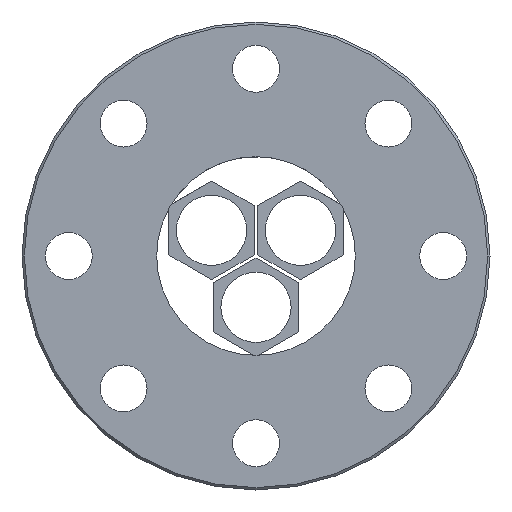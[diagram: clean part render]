
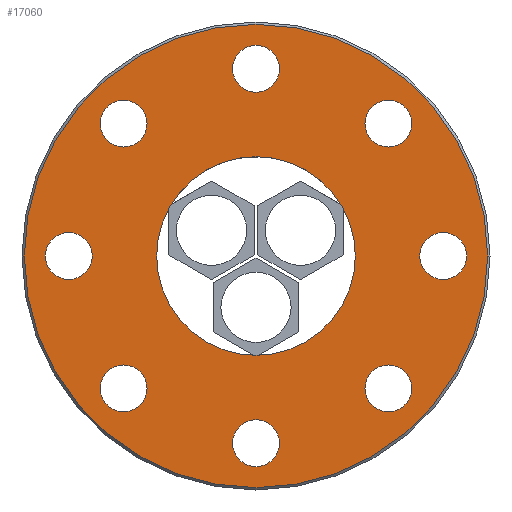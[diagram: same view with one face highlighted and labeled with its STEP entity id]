
A CAD part, left-side view. The second image highlights one B-rep face of the part: STEP entity #17060.
In plain terms, the highlighted planar face has unit normal (-1, 0, 0).
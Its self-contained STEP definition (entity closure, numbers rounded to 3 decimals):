
#7020=CARTESIAN_POINT('',(-76.,-66.569,56.569));
#7030=VERTEX_POINT('',#7020);
#7060=CARTESIAN_POINT('',(-76.,-56.569,56.569));
#7070=DIRECTION('',(-1.,0.,0.));
#7080=DIRECTION('',(0.,-1.,0.));
#7090=AXIS2_PLACEMENT_3D('',#7060,#7070,#7080);
#7100=CIRCLE('',#7090,10.);
#7110=CARTESIAN_POINT('',(-76.,-46.569,56.569));
#7120=VERTEX_POINT('',#7110);
#7130=EDGE_CURVE('',#7120,#7030,#7100,.T.);
#15610=CARTESIAN_POINT('',(-76.,43.005,9.807));
#15620=DIRECTION('',(-1.,0.,0.));
#15630=DIRECTION('',(0.,-1.,0.));
#15640=AXIS2_PLACEMENT_3D('',#15610,#15620,#15630);
#15650=PLANE('',#15640);
#15660=CARTESIAN_POINT('',(-76.,0.,0.));
#15670=DIRECTION('',(-1.,0.,0.));
#15680=DIRECTION('',(0.,-1.,0.));
#15690=AXIS2_PLACEMENT_3D('',#15660,#15670,#15680);
#15700=CIRCLE('',#15690,42.45);
#15710=CARTESIAN_POINT('',(-76.,-42.45,0.));
#15720=VERTEX_POINT('',#15710);
#15730=CARTESIAN_POINT('',(-76.,42.45,0.));
#15740=VERTEX_POINT('',#15730);
#15750=EDGE_CURVE('',#15720,#15740,#15700,.T.);
#15760=ORIENTED_EDGE('',*,*,#15750,.F.);
#15770=EDGE_CURVE('',#15740,#15720,#15700,.T.);
#15780=ORIENTED_EDGE('',*,*,#15770,.F.);
#15790=EDGE_LOOP('',(#15780,#15760));
#15800=FACE_BOUND('',#15790,.T.);
#15810=CARTESIAN_POINT('',(-76.,56.569,56.569));
#15820=DIRECTION('',(-1.,0.,0.));
#15830=DIRECTION('',(0.,-1.,0.));
#15840=AXIS2_PLACEMENT_3D('',#15810,#15820,#15830);
#15850=CIRCLE('',#15840,10.);
#15860=CARTESIAN_POINT('',(-76.,46.569,56.569));
#15870=VERTEX_POINT('',#15860);
#15880=CARTESIAN_POINT('',(-76.,66.569,56.569));
#15890=VERTEX_POINT('',#15880);
#15900=EDGE_CURVE('',#15870,#15890,#15850,.T.);
#15910=ORIENTED_EDGE('',*,*,#15900,.F.);
#15920=EDGE_CURVE('',#15890,#15870,#15850,.T.);
#15930=ORIENTED_EDGE('',*,*,#15920,.F.);
#15940=EDGE_LOOP('',(#15930,#15910));
#15950=FACE_BOUND('',#15940,.T.);
#15960=CARTESIAN_POINT('',(-76.,80.,0.));
#15970=DIRECTION('',(-1.,0.,0.));
#15980=DIRECTION('',(0.,-1.,0.));
#15990=AXIS2_PLACEMENT_3D('',#15960,#15970,#15980);
#16000=CIRCLE('',#15990,10.);
#16010=CARTESIAN_POINT('',(-76.,70.,0.));
#16020=VERTEX_POINT('',#16010);
#16030=CARTESIAN_POINT('',(-76.,90.,0.));
#16040=VERTEX_POINT('',#16030);
#16050=EDGE_CURVE('',#16020,#16040,#16000,.T.);
#16060=ORIENTED_EDGE('',*,*,#16050,.F.);
#16070=EDGE_CURVE('',#16040,#16020,#16000,.T.);
#16080=ORIENTED_EDGE('',*,*,#16070,.F.);
#16090=EDGE_LOOP('',(#16080,#16060));
#16100=FACE_BOUND('',#16090,.T.);
#16110=CARTESIAN_POINT('',(-76.,56.569,-56.569));
#16120=DIRECTION('',(-1.,0.,0.));
#16130=DIRECTION('',(0.,-1.,0.));
#16140=AXIS2_PLACEMENT_3D('',#16110,#16120,#16130);
#16150=CIRCLE('',#16140,10.);
#16160=CARTESIAN_POINT('',(-76.,46.569,-56.569));
#16170=VERTEX_POINT('',#16160);
#16180=CARTESIAN_POINT('',(-76.,66.569,-56.569));
#16190=VERTEX_POINT('',#16180);
#16200=EDGE_CURVE('',#16170,#16190,#16150,.T.);
#16210=ORIENTED_EDGE('',*,*,#16200,.F.);
#16220=EDGE_CURVE('',#16190,#16170,#16150,.T.);
#16230=ORIENTED_EDGE('',*,*,#16220,.F.);
#16240=EDGE_LOOP('',(#16230,#16210));
#16250=FACE_BOUND('',#16240,.T.);
#16260=CARTESIAN_POINT('',(-76.,0.,-80.));
#16270=DIRECTION('',(-1.,0.,0.));
#16280=DIRECTION('',(0.,-1.,0.));
#16290=AXIS2_PLACEMENT_3D('',#16260,#16270,#16280);
#16300=CIRCLE('',#16290,10.);
#16310=CARTESIAN_POINT('',(-76.,-10.,-80.));
#16320=VERTEX_POINT('',#16310);
#16330=CARTESIAN_POINT('',(-76.,10.,-80.));
#16340=VERTEX_POINT('',#16330);
#16350=EDGE_CURVE('',#16320,#16340,#16300,.T.);
#16360=ORIENTED_EDGE('',*,*,#16350,.F.);
#16370=EDGE_CURVE('',#16340,#16320,#16300,.T.);
#16380=ORIENTED_EDGE('',*,*,#16370,.F.);
#16390=EDGE_LOOP('',(#16380,#16360));
#16400=FACE_BOUND('',#16390,.T.);
#16410=CARTESIAN_POINT('',(-76.,-56.569,-56.569));
#16420=DIRECTION('',(-1.,0.,0.));
#16430=DIRECTION('',(0.,-1.,0.));
#16440=AXIS2_PLACEMENT_3D('',#16410,#16420,#16430);
#16450=CIRCLE('',#16440,10.);
#16460=CARTESIAN_POINT('',(-76.,-66.569,-56.569));
#16470=VERTEX_POINT('',#16460);
#16480=CARTESIAN_POINT('',(-76.,-46.569,-56.569));
#16490=VERTEX_POINT('',#16480);
#16500=EDGE_CURVE('',#16470,#16490,#16450,.T.);
#16510=ORIENTED_EDGE('',*,*,#16500,.F.);
#16520=EDGE_CURVE('',#16490,#16470,#16450,.T.);
#16530=ORIENTED_EDGE('',*,*,#16520,.F.);
#16540=EDGE_LOOP('',(#16530,#16510));
#16550=FACE_BOUND('',#16540,.T.);
#16560=CARTESIAN_POINT('',(-76.,-80.,0.));
#16570=DIRECTION('',(-1.,0.,0.));
#16580=DIRECTION('',(0.,-1.,0.));
#16590=AXIS2_PLACEMENT_3D('',#16560,#16570,#16580);
#16600=CIRCLE('',#16590,10.);
#16610=CARTESIAN_POINT('',(-76.,-90.,0.));
#16620=VERTEX_POINT('',#16610);
#16630=CARTESIAN_POINT('',(-76.,-70.,0.));
#16640=VERTEX_POINT('',#16630);
#16650=EDGE_CURVE('',#16620,#16640,#16600,.T.);
#16660=ORIENTED_EDGE('',*,*,#16650,.F.);
#16670=EDGE_CURVE('',#16640,#16620,#16600,.T.);
#16680=ORIENTED_EDGE('',*,*,#16670,.F.);
#16690=EDGE_LOOP('',(#16680,#16660));
#16700=FACE_BOUND('',#16690,.T.);
#16710=EDGE_CURVE('',#7030,#7120,#7100,.T.);
#16720=ORIENTED_EDGE('',*,*,#16710,.F.);
#16730=ORIENTED_EDGE('',*,*,#7130,.F.);
#16740=EDGE_LOOP('',(#16730,#16720));
#16750=FACE_BOUND('',#16740,.T.);
#16760=CARTESIAN_POINT('',(-76.,0.,80.));
#16770=DIRECTION('',(-1.,0.,0.));
#16780=DIRECTION('',(0.,-1.,0.));
#16790=AXIS2_PLACEMENT_3D('',#16760,#16770,#16780);
#16800=CIRCLE('',#16790,10.);
#16810=CARTESIAN_POINT('',(-76.,-10.,80.));
#16820=VERTEX_POINT('',#16810);
#16830=CARTESIAN_POINT('',(-76.,10.,80.));
#16840=VERTEX_POINT('',#16830);
#16850=EDGE_CURVE('',#16820,#16840,#16800,.T.);
#16860=ORIENTED_EDGE('',*,*,#16850,.F.);
#16870=EDGE_CURVE('',#16840,#16820,#16800,.T.);
#16880=ORIENTED_EDGE('',*,*,#16870,.F.);
#16890=EDGE_LOOP('',(#16880,#16860));
#16900=FACE_BOUND('',#16890,.T.);
#16910=CARTESIAN_POINT('',(-76.,0.,0.));
#16920=DIRECTION('',(-1.,0.,0.));
#16930=DIRECTION('',(0.,1.,0.));
#16940=AXIS2_PLACEMENT_3D('',#16910,#16920,#16930);
#16950=CIRCLE('',#16940,99.);
#16960=CARTESIAN_POINT('',(-76.,-99.,0.));
#16970=VERTEX_POINT('',#16960);
#16980=CARTESIAN_POINT('',(-76.,99.,0.));
#16990=VERTEX_POINT('',#16980);
#17000=EDGE_CURVE('',#16970,#16990,#16950,.T.);
#17010=ORIENTED_EDGE('',*,*,#17000,.T.);
#17020=EDGE_CURVE('',#16990,#16970,#16950,.T.);
#17030=ORIENTED_EDGE('',*,*,#17020,.T.);
#17040=EDGE_LOOP('',(#17030,#17010));
#17050=FACE_OUTER_BOUND('',#17040,.T.);
#17060=ADVANCED_FACE('',(#15800,#15950,#16100,#16250,#16400,#16550,
#16700,#16750,#16900,#17050),#15650,.T.);
